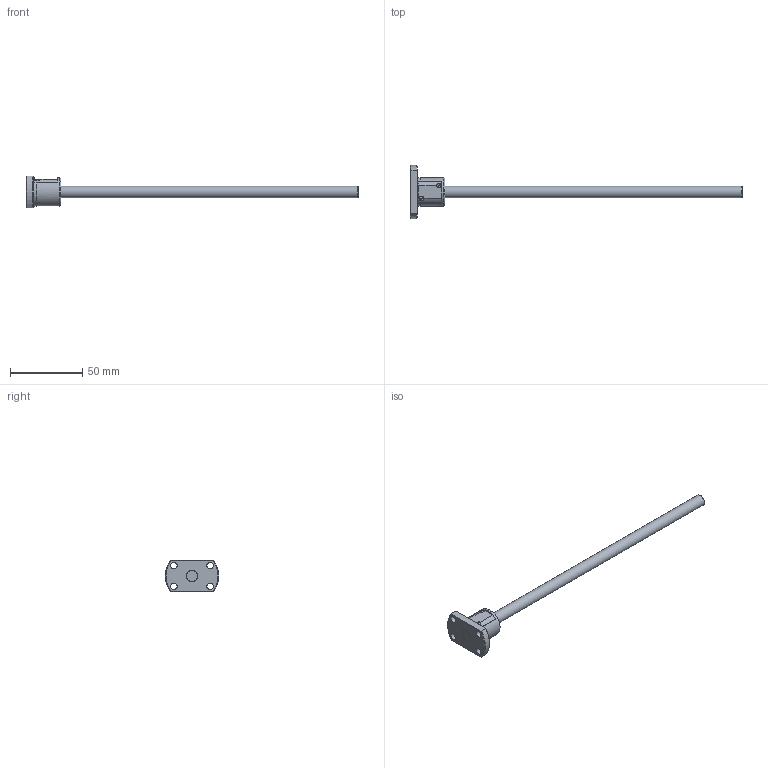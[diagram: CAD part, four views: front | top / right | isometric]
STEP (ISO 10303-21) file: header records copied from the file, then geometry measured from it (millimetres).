
FILE_DESCRIPTION( ( 'STEP AP203' ), '1' );
FILE_NAME( 'e:/temp/worker_109/temp/exporttempdir_2284_1847_hKs4g/format_0/PSR0802-230R230C5(0).stp', '2021-10-19T08:15:39', ( 'License CC BY-ND 4.0' ), ( 'CADENAS' ), ' ', 'PARTsolutions', ' ' );
FILE_SCHEMA( ( 'CONFIG_CONTROL_DESIGN' ) );
Length unit declared in the file: millimetre
Products named in the file (3): PSR0802-230R230C5(0); _PSR0802_shaft; _PSR0802_nut
Assembly tree (2 placements, depth 2):
  PSR0802-230R230C5(0)
    _PSR0802_shaft
    _PSR0802_nut
Bounding box: 230 x 37 x 22 mm (x, y, z)
Volume: 19597.8 mm3; surface area: 9880.6 mm2
Topology: 2 solids, 2 shells, 54 faces, 138 edges, 91 vertices
Faces by surface type: plane 25, cylinder 22, cone 7
Full cylindrical faces by diameter (mm): 3.2 x2, 4.5 x4, 8 x2, 19.6 x1, 20 x1
Entity records: 1732 total; most frequent: CARTESIAN_POINT 339, DIRECTION 278, ORIENTED_EDGE 242, EDGE_CURVE 121, AXIS2_PLACEMENT_3D 110, VERTEX_POINT 87, EDGE_LOOP 80, FACE_OUTER_BOUND 64
